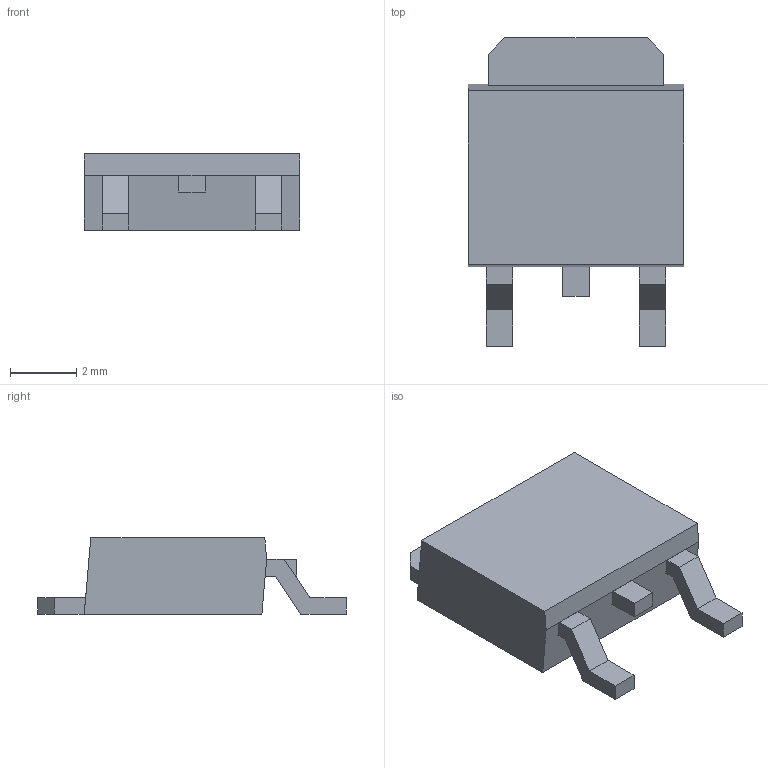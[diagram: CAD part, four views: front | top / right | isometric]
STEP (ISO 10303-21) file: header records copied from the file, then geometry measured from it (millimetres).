
FILE_DESCRIPTION (( 'STEP AP214' ), '1' );
FILE_NAME ('TO-252(DPAK).STEP', '2023-07-13T10:47:53', ( '' ), ( '' ), 'SwSTEP 2.0', 'SolidWorks 2021', '' );
FILE_SCHEMA (( 'AUTOMOTIVE_DESIGN' ));
Length unit declared in the file: millimetre
Products named in the file (1): TO-252(DPAK)
Bounding box: 6.5 x 9.3 x 2.3 mm (x, y, z)
Volume: 86.3 mm3; surface area: 159.7 mm2
Topology: 4 solids, 4 shells, 40 faces, 104 edges, 72 vertices
Faces by surface type: plane 40
Entity records: 1352 total; most frequent: CARTESIAN_POINT 217, ORIENTED_EDGE 208, DIRECTION 188, EDGE_CURVE 104, VECTOR 102, LINE 102, VERTEX_POINT 72, AXIS2_PLACEMENT_3D 43
